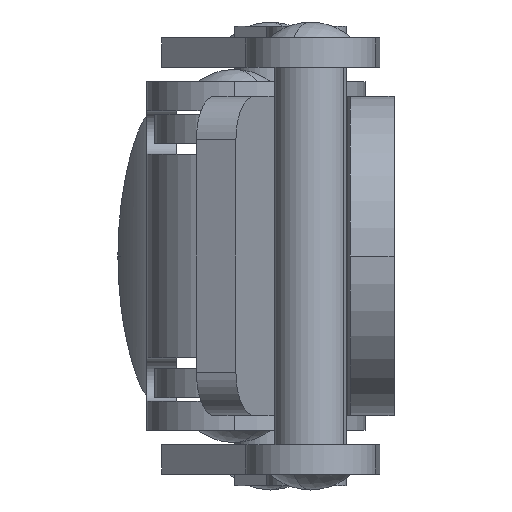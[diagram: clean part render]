
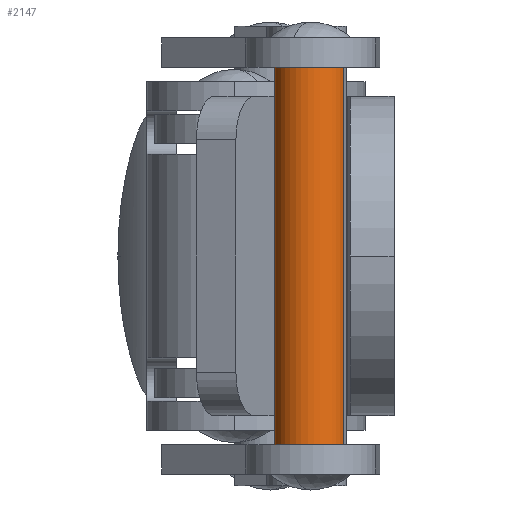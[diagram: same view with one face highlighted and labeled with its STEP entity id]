
A CAD part, left-side view. The second image highlights one B-rep face of the part: STEP entity #2147.
In plain terms, the highlighted cylindrical face has radius 2.5 mm (diameter 5 mm), a partial arc.
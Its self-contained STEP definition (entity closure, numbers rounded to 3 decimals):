
#127 = CARTESIAN_POINT ( 'NONE',  ( -15., 0., -2.5 ) ) ;
#626 = AXIS2_PLACEMENT_3D ( 'NONE', #3643, #3644, #3645 ) ;
#628 = VECTOR ( 'NONE', #3631, 1000. ) ;
#629 = AXIS2_PLACEMENT_3D ( 'NONE', #3646, #3647, #3648 ) ;
#632 = VECTOR ( 'NONE', #3640, 1000. ) ;
#1771 = VERTEX_POINT ( 'NONE', #5076 ) ;
#1786 = VERTEX_POINT ( 'NONE', #5091 ) ;
#1788 = VERTEX_POINT ( 'NONE', #5093 ) ;
#1909 = CIRCLE ( 'NONE', #629, 2.5 ) ;
#1910 = CIRCLE ( 'NONE', #626, 2.5 ) ;
#2147 = ADVANCED_FACE ( 'NONE', ( #3099 ), #3109, .T. ) ;
#2785 = ORIENTED_EDGE ( 'NONE', *, *, #4090, .F. ) ;
#2789 = ORIENTED_EDGE ( 'NONE', *, *, #4093, .T. ) ;
#2790 = ORIENTED_EDGE ( 'NONE', *, *, #4096, .T. ) ;
#2792 = ORIENTED_EDGE ( 'NONE', *, *, #4095, .F. ) ;
#3032 = AXIS2_PLACEMENT_3D ( 'NONE', #5371, #5372, #5373 ) ;
#3099 = FACE_OUTER_BOUND ( 'NONE', #4210, .T. ) ;
#3109 = CYLINDRICAL_SURFACE ( 'NONE', #3032, 2.5 ) ;
#3629 = LINE ( 'NONE', #3630, #628 ) ;
#3630 = CARTESIAN_POINT ( 'NONE',  ( -34.188, 0., -2.5 ) ) ;
#3631 = DIRECTION ( 'NONE',  ( -1., 0., 0. ) ) ;
#3638 = LINE ( 'NONE', #3639, #632 ) ;
#3639 = CARTESIAN_POINT ( 'NONE',  ( -34.188, 0., 2.5 ) ) ;
#3640 = DIRECTION ( 'NONE',  ( -1., 0., 0. ) ) ;
#3643 = CARTESIAN_POINT ( 'NONE',  ( -15., 0., 0. ) ) ;
#3644 = DIRECTION ( 'NONE',  ( -1., 0., 0. ) ) ;
#3645 = DIRECTION ( 'NONE',  ( 0., 0., 1. ) ) ;
#3646 = CARTESIAN_POINT ( 'NONE',  ( 15., 0., 0. ) ) ;
#3647 = DIRECTION ( 'NONE',  ( -1., 0., 0. ) ) ;
#3648 = DIRECTION ( 'NONE',  ( 0., 0., 1. ) ) ;
#4090 = EDGE_CURVE ( 'NONE', #1788, #5471, #3629, .T. ) ;
#4093 = EDGE_CURVE ( 'NONE', #1786, #1771, #3638, .T. ) ;
#4095 = EDGE_CURVE ( 'NONE', #5471, #1771, #1910, .T. ) ;
#4096 = EDGE_CURVE ( 'NONE', #1788, #1786, #1909, .T. ) ;
#4210 = EDGE_LOOP ( 'NONE', ( #2785, #2790, #2789, #2792 ) ) ;
#5076 = CARTESIAN_POINT ( 'NONE',  ( -15., 0., 2.5 ) ) ;
#5091 = CARTESIAN_POINT ( 'NONE',  ( 15., 0., 2.5 ) ) ;
#5093 = CARTESIAN_POINT ( 'NONE',  ( 15., 0., -2.5 ) ) ;
#5371 = CARTESIAN_POINT ( 'NONE',  ( -34.188, 0., 0. ) ) ;
#5372 = DIRECTION ( 'NONE',  ( -1., 0., 0. ) ) ;
#5373 = DIRECTION ( 'NONE',  ( 0., 0., 1. ) ) ;
#5471 = VERTEX_POINT ( 'NONE', #127 ) ;
